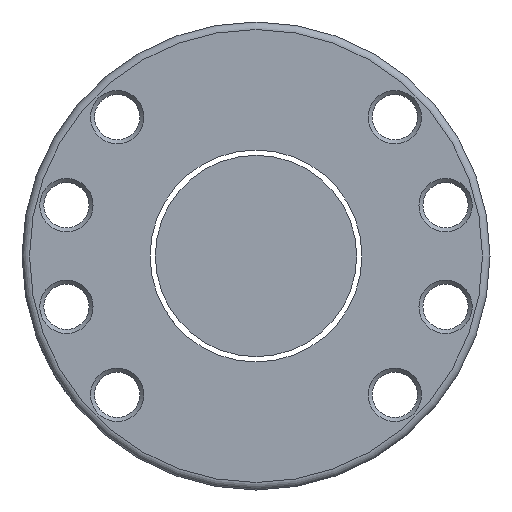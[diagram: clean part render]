
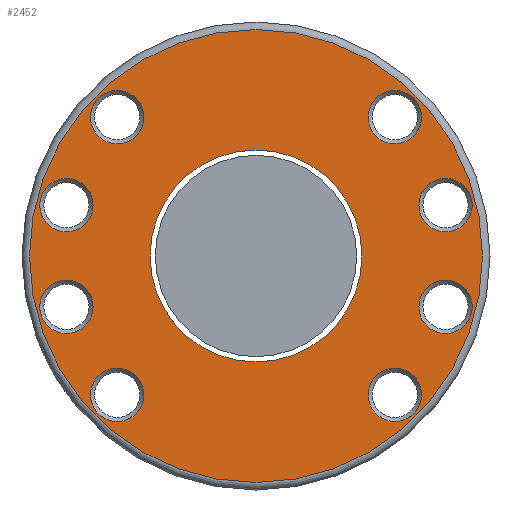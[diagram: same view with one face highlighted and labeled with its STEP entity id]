
A CAD part, left-side view. The second image highlights one B-rep face of the part: STEP entity #2452.
In plain terms, the highlighted planar face has unit normal (-1, 0, 0).
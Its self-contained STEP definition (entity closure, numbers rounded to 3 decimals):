
#4 = EDGE_CURVE ( 'NONE', #41, #41, #1045, .T. ) ;
#5 = EDGE_LOOP ( 'NONE', ( #1232 ) ) ;
#7 = EDGE_CURVE ( 'NONE', #915, #915, #2142, .T. ) ;
#34 = EDGE_LOOP ( 'NONE', ( #2204 ) ) ;
#41 = VERTEX_POINT ( 'NONE', #488 ) ;
#83 = CIRCLE ( 'NONE', #361, 5.3 ) ;
#139 = AXIS2_PLACEMENT_3D ( 'NONE', #769, #2068, #783 ) ;
#161 = DIRECTION ( 'NONE',  ( 1., 0., 0. ) ) ;
#171 = EDGE_LOOP ( 'NONE', ( #288 ) ) ;
#288 = ORIENTED_EDGE ( 'NONE', *, *, #304, .T. ) ;
#304 = EDGE_CURVE ( 'NONE', #1801, #1801, #2467, .T. ) ;
#307 = CARTESIAN_POINT ( 'NONE',  ( -55., -32.877, 27.577 ) ) ;
#330 = CARTESIAN_POINT ( 'NONE',  ( -55., -27.577, 27.577 ) ) ;
#336 = EDGE_LOOP ( 'NONE', ( #2535 ) ) ;
#361 = AXIS2_PLACEMENT_3D ( 'NONE', #330, #1644, #1248 ) ;
#379 = CARTESIAN_POINT ( 'NONE',  ( -55., -27.577, -27.577 ) ) ;
#394 = FACE_BOUND ( 'NONE', #171, .T. ) ;
#466 = EDGE_CURVE ( 'NONE', #1397, #1397, #83, .T. ) ;
#467 = ORIENTED_EDGE ( 'NONE', *, *, #466, .T. ) ;
#488 = CARTESIAN_POINT ( 'NONE',  ( -55., 22.277, 27.577 ) ) ;
#522 = EDGE_LOOP ( 'NONE', ( #2063 ) ) ;
#544 = DIRECTION ( 'NONE',  ( 0., -1., 0. ) ) ;
#588 = FACE_BOUND ( 'NONE', #2005, .T. ) ;
#591 = DIRECTION ( 'NONE',  ( 1., 0., 0. ) ) ;
#616 = DIRECTION ( 'NONE',  ( -1., 0., 0. ) ) ;
#643 = DIRECTION ( 'NONE',  ( 0., 1., 0. ) ) ;
#745 = DIRECTION ( 'NONE',  ( 0., -1., 0. ) ) ;
#769 = CARTESIAN_POINT ( 'NONE',  ( -55., -37.671, -10.094 ) ) ;
#783 = DIRECTION ( 'NONE',  ( 0., -1., 0. ) ) ;
#798 = VERTEX_POINT ( 'NONE', #2084 ) ;
#807 = CARTESIAN_POINT ( 'NONE',  ( -55., 37.671, -10.094 ) ) ;
#815 = AXIS2_PLACEMENT_3D ( 'NONE', #1843, #591, #1636 ) ;
#828 = VERTEX_POINT ( 'NONE', #2765 ) ;
#843 = CARTESIAN_POINT ( 'NONE',  ( -55., 46.5, 0. ) ) ;
#851 = DIRECTION ( 'NONE',  ( 0., -1., 0. ) ) ;
#869 = AXIS2_PLACEMENT_3D ( 'NONE', #1756, #1552, #643 ) ;
#915 = VERTEX_POINT ( 'NONE', #1789 ) ;
#940 = EDGE_CURVE ( 'NONE', #2693, #2693, #2144, .T. ) ;
#1003 = DIRECTION ( 'NONE',  ( -1., 0., 0. ) ) ;
#1006 = AXIS2_PLACEMENT_3D ( 'NONE', #843, #1003, #1870 ) ;
#1015 = ORIENTED_EDGE ( 'NONE', *, *, #1456, .T. ) ;
#1016 = CARTESIAN_POINT ( 'NONE',  ( -55., -42.971, -10.094 ) ) ;
#1045 = CIRCLE ( 'NONE', #1817, 5.3 ) ;
#1051 = AXIS2_PLACEMENT_3D ( 'NONE', #807, #2402, #2827 ) ;
#1060 = CARTESIAN_POINT ( 'NONE',  ( -55., 27.577, -27.577 ) ) ;
#1061 = CIRCLE ( 'NONE', #869, 21.05 ) ;
#1080 = ORIENTED_EDGE ( 'NONE', *, *, #7, .T. ) ;
#1217 = EDGE_LOOP ( 'NONE', ( #1080 ) ) ;
#1232 = ORIENTED_EDGE ( 'NONE', *, *, #4, .T. ) ;
#1248 = DIRECTION ( 'NONE',  ( 0., -1., 0. ) ) ;
#1250 = VERTEX_POINT ( 'NONE', #1016 ) ;
#1283 = FACE_BOUND ( 'NONE', #1856, .T. ) ;
#1300 = FACE_BOUND ( 'NONE', #1217, .T. ) ;
#1315 = ORIENTED_EDGE ( 'NONE', *, *, #2127, .T. ) ;
#1383 = AXIS2_PLACEMENT_3D ( 'NONE', #379, #161, #2385 ) ;
#1397 = VERTEX_POINT ( 'NONE', #307 ) ;
#1425 = CARTESIAN_POINT ( 'NONE',  ( -55., 22.277, -27.577 ) ) ;
#1456 = EDGE_CURVE ( 'NONE', #1839, #1839, #1468, .T. ) ;
#1465 = AXIS2_PLACEMENT_3D ( 'NONE', #1592, #2705, #745 ) ;
#1468 = CIRCLE ( 'NONE', #1051, 5.3 ) ;
#1501 = FACE_BOUND ( 'NONE', #2662, .T. ) ;
#1552 = DIRECTION ( 'NONE',  ( 1., 0., 0. ) ) ;
#1592 = CARTESIAN_POINT ( 'NONE',  ( -55., 37.671, 10.094 ) ) ;
#1621 = CARTESIAN_POINT ( 'NONE',  ( -55., 32.371, -10.094 ) ) ;
#1636 = DIRECTION ( 'NONE',  ( 0., -1., 0. ) ) ;
#1644 = DIRECTION ( 'NONE',  ( 1., 0., 0. ) ) ;
#1679 = CARTESIAN_POINT ( 'NONE',  ( -55., 27.577, 27.577 ) ) ;
#1724 = DIRECTION ( 'NONE',  ( 1., 0., 0. ) ) ;
#1756 = CARTESIAN_POINT ( 'NONE',  ( -55., 0., 0. ) ) ;
#1789 = CARTESIAN_POINT ( 'NONE',  ( -55., -42.971, 10.094 ) ) ;
#1801 = VERTEX_POINT ( 'NONE', #2041 ) ;
#1817 = AXIS2_PLACEMENT_3D ( 'NONE', #1679, #2556, #544 ) ;
#1821 = AXIS2_PLACEMENT_3D ( 'NONE', #1060, #1724, #851 ) ;
#1839 = VERTEX_POINT ( 'NONE', #1621 ) ;
#1843 = CARTESIAN_POINT ( 'NONE',  ( -55., -37.671, 10.094 ) ) ;
#1851 = EDGE_LOOP ( 'NONE', ( #1959 ) ) ;
#1856 = EDGE_LOOP ( 'NONE', ( #1315 ) ) ;
#1870 = DIRECTION ( 'NONE',  ( 0., -1., 0. ) ) ;
#1880 = CARTESIAN_POINT ( 'NONE',  ( -55., -32.877, -27.577 ) ) ;
#1883 = FACE_OUTER_BOUND ( 'NONE', #1851, .T. ) ;
#1915 = CARTESIAN_POINT ( 'NONE',  ( -55., 0., 0. ) ) ;
#1927 = FACE_BOUND ( 'NONE', #522, .T. ) ;
#1959 = ORIENTED_EDGE ( 'NONE', *, *, #2418, .T. ) ;
#2005 = EDGE_LOOP ( 'NONE', ( #467 ) ) ;
#2011 = CIRCLE ( 'NONE', #139, 5.3 ) ;
#2041 = CARTESIAN_POINT ( 'NONE',  ( -55., 32.371, 10.094 ) ) ;
#2063 = ORIENTED_EDGE ( 'NONE', *, *, #2640, .T. ) ;
#2068 = DIRECTION ( 'NONE',  ( 1., 0., 0. ) ) ;
#2084 = CARTESIAN_POINT ( 'NONE',  ( -55., 21.05, 0. ) ) ;
#2105 = DIRECTION ( 'NONE',  ( 0., -1., 0. ) ) ;
#2127 = EDGE_CURVE ( 'NONE', #1250, #1250, #2011, .T. ) ;
#2142 = CIRCLE ( 'NONE', #815, 5.3 ) ;
#2144 = CIRCLE ( 'NONE', #1821, 5.3 ) ;
#2204 = ORIENTED_EDGE ( 'NONE', *, *, #2466, .T. ) ;
#2352 = VERTEX_POINT ( 'NONE', #1880 ) ;
#2355 = FACE_BOUND ( 'NONE', #5, .T. ) ;
#2369 = FACE_BOUND ( 'NONE', #34, .T. ) ;
#2385 = DIRECTION ( 'NONE',  ( 0., -1., 0. ) ) ;
#2387 = AXIS2_PLACEMENT_3D ( 'NONE', #1915, #616, #2105 ) ;
#2402 = DIRECTION ( 'NONE',  ( 1., 0., 0. ) ) ;
#2418 = EDGE_CURVE ( 'NONE', #828, #828, #2659, .T. ) ;
#2452 = ADVANCED_FACE ( 'NONE', ( #1883, #1501, #2554, #2369, #1283, #1300, #588, #2355, #394, #1927 ), #2811, .T. ) ;
#2466 = EDGE_CURVE ( 'NONE', #2352, #2352, #2612, .T. ) ;
#2467 = CIRCLE ( 'NONE', #1465, 5.3 ) ;
#2535 = ORIENTED_EDGE ( 'NONE', *, *, #940, .T. ) ;
#2554 = FACE_BOUND ( 'NONE', #336, .T. ) ;
#2556 = DIRECTION ( 'NONE',  ( 1., 0., 0. ) ) ;
#2612 = CIRCLE ( 'NONE', #1383, 5.3 ) ;
#2640 = EDGE_CURVE ( 'NONE', #798, #798, #1061, .T. ) ;
#2659 = CIRCLE ( 'NONE', #2387, 45. ) ;
#2662 = EDGE_LOOP ( 'NONE', ( #1015 ) ) ;
#2693 = VERTEX_POINT ( 'NONE', #1425 ) ;
#2705 = DIRECTION ( 'NONE',  ( 1., 0., 0. ) ) ;
#2765 = CARTESIAN_POINT ( 'NONE',  ( -55., -45., 0. ) ) ;
#2811 = PLANE ( 'NONE',  #1006 ) ;
#2827 = DIRECTION ( 'NONE',  ( 0., -1., 0. ) ) ;
